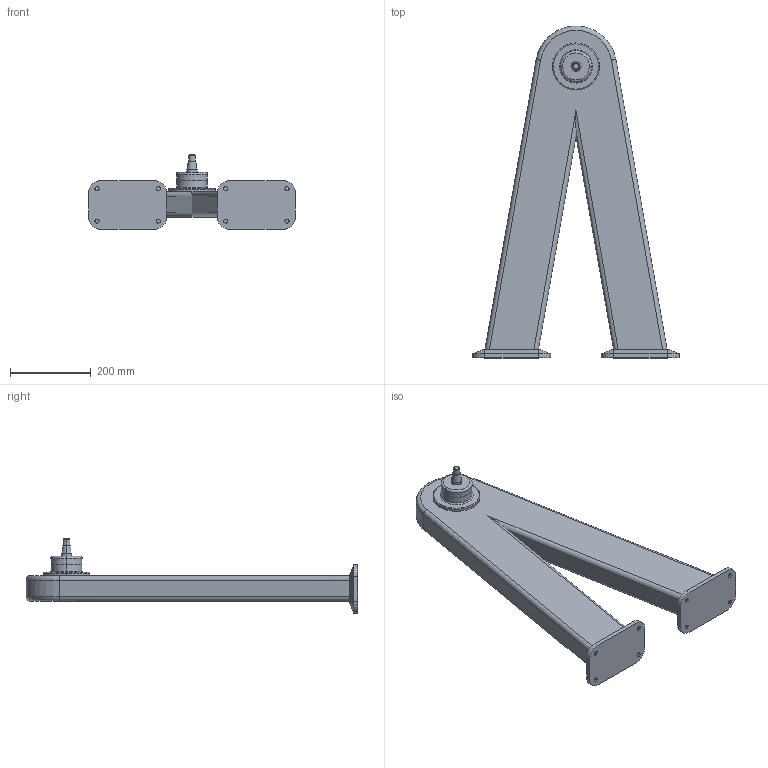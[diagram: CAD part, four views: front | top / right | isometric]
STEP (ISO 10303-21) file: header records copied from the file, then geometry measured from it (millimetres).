
FILE_DESCRIPTION (( 'STEP AP214' ), '1' );
FILE_NAME ('WP850_H720.STEP', '2014-09-08T13:05:25', ( '' ), ( '' ), 'SwSTEP 2.0', 'SolidWorks 2014', '' );
FILE_SCHEMA (( 'AUTOMOTIVE_DESIGN' ));
Length unit declared in the file: millimetre
Products named in the file (1): WP850_H720
Bounding box: 510.94 x 820 x 183.98 mm (x, y, z)
Volume: 13195917.1 mm3; surface area: 642755.8 mm2
Topology: 1 solids, 1 shells, 101 faces, 221 edges, 136 vertices
Faces by surface type: cylinder 41, plane 38, cone 14, torus 8
Entity records: 2795 total; most frequent: DIRECTION 513, CARTESIAN_POINT 489, ORIENTED_EDGE 442, EDGE_CURVE 221, AXIS2_PLACEMENT_3D 200, VERTEX_POINT 136, EDGE_LOOP 115, VECTOR 113
